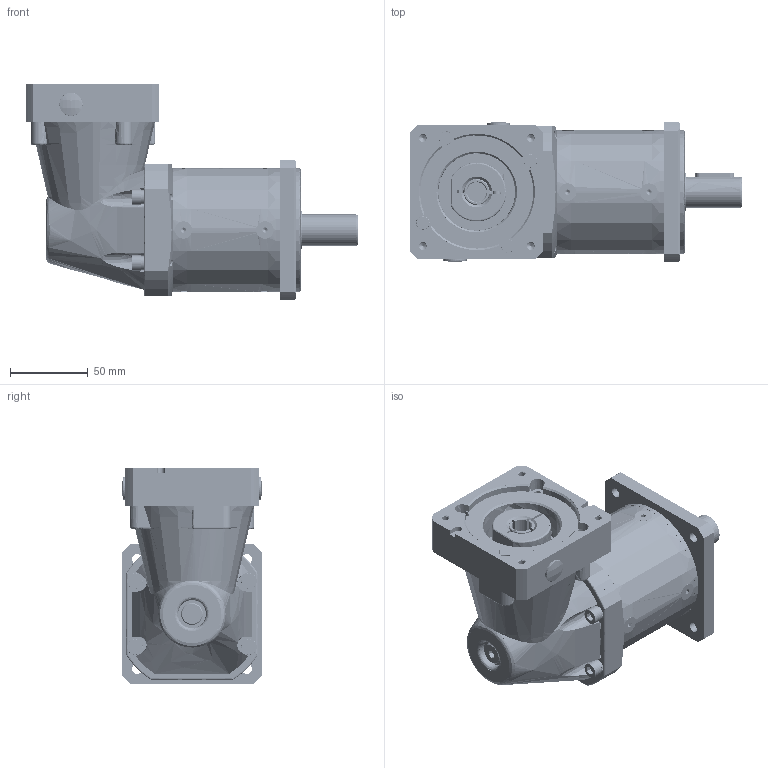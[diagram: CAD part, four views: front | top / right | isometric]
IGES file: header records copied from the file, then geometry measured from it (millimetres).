
Start section: SolidWorks IGES file using analytic representation for surfaces
Global section: file name: C:\TeknicPDM\Remarketed and Private Label Products\Gearboxes\Gearbox Customer Files\GSFR (Newstart WPF Series)\GSFR-080-0_ _-N034_-XX Two Stage.IGS; native system: SolidWorks 2020; preprocessor: SolidWorks 2020; author: zeb_koch; date: 250825.161707; units: millimetre
Bounding box: 214 x 90.39 x 139 mm (x, y, z)
Surface area: 249839.8 mm2 (no closed solid volume)
Topology: 0 solids, 0 shells, 1699 faces, 32985 edges, 32865 vertices
Faces by surface type: bspline 922, revolution 777
